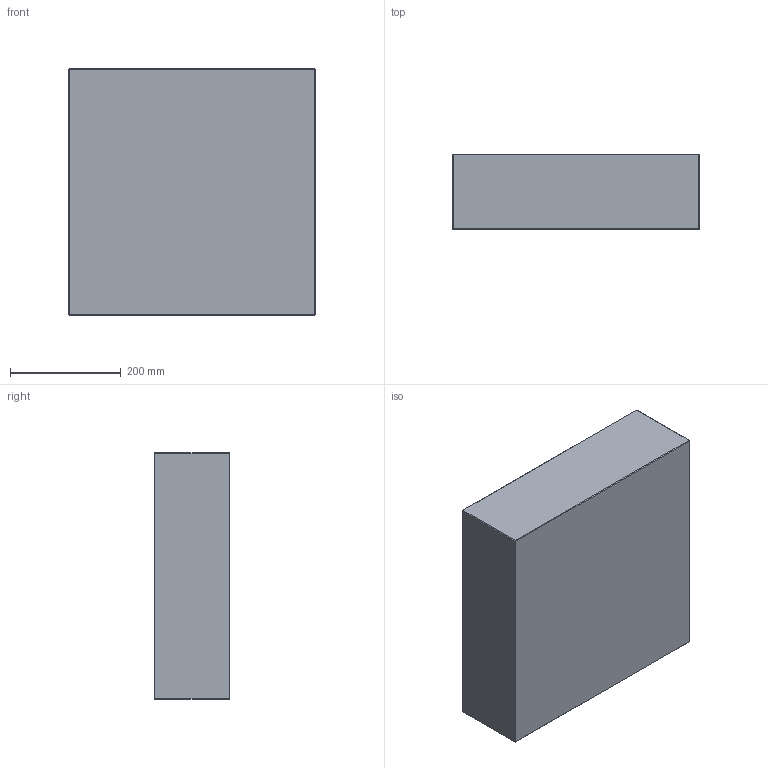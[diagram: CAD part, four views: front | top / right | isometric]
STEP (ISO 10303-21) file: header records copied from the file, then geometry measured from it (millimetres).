
FILE_DESCRIPTION (( 'STEP AP214' ), '1' );
FILE_NAME ('PC-P-446x446x136.STEP', '2020-04-01T11:10:28', ( 'August' ), ( '' ), 'SwSTEP 2.0', 'SolidWorks 2018', '' );
FILE_SCHEMA (( 'AUTOMOTIVE_DESIGN' ));
Length unit declared in the file: millimetre
Products named in the file (1): PC-P-446x446x136
Bounding box: 446 x 136 x 446 mm (x, y, z)
Volume: 27050525.3 mm3; surface area: 638044.2 mm2
Topology: 1 solids, 1 shells, 26 faces, 48 edges, 24 vertices
Faces by surface type: plane 26
Entity records: 634 total; most frequent: DIRECTION 102, CARTESIAN_POINT 99, ORIENTED_EDGE 96, LINE 48, EDGE_CURVE 48, VECTOR 48, AXIS2_PLACEMENT_3D 27, PLANE 26
